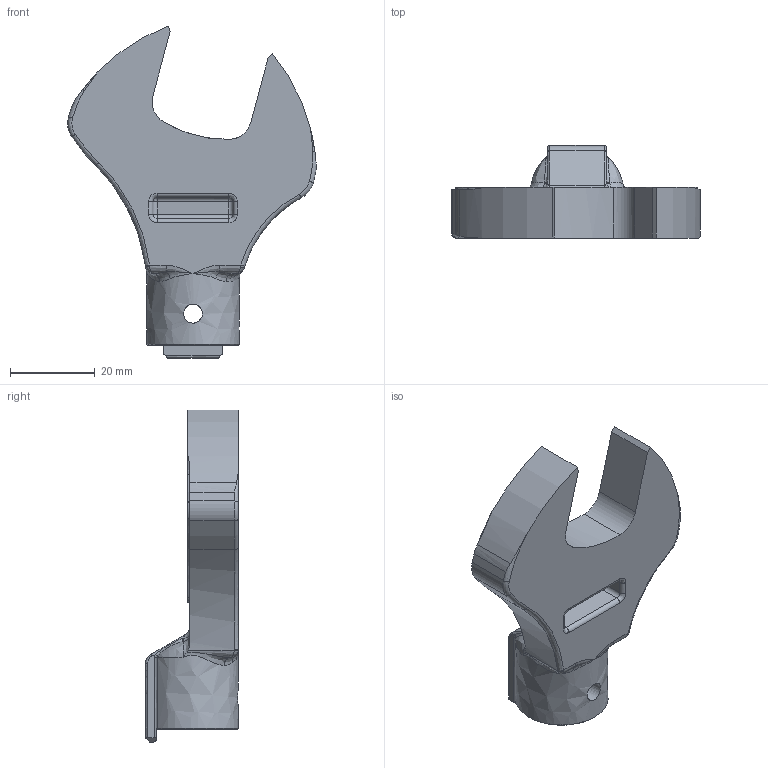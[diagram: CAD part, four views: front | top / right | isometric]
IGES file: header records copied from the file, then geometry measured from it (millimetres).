
Global section: file name: SH15DX24; native system: Autodesk Inventor 2016; preprocessor: unknown; author: Q600; date: 20151029.184207; units: millimetre
Bounding box: 58.83 x 22 x 78.55 mm (x, y, z)
Volume: 25187.1 mm3; surface area: 9067.9 mm2
Topology: 1 solids, 1 shells, 130 faces, 344 edges, 208 vertices
Faces by surface type: bspline 130
